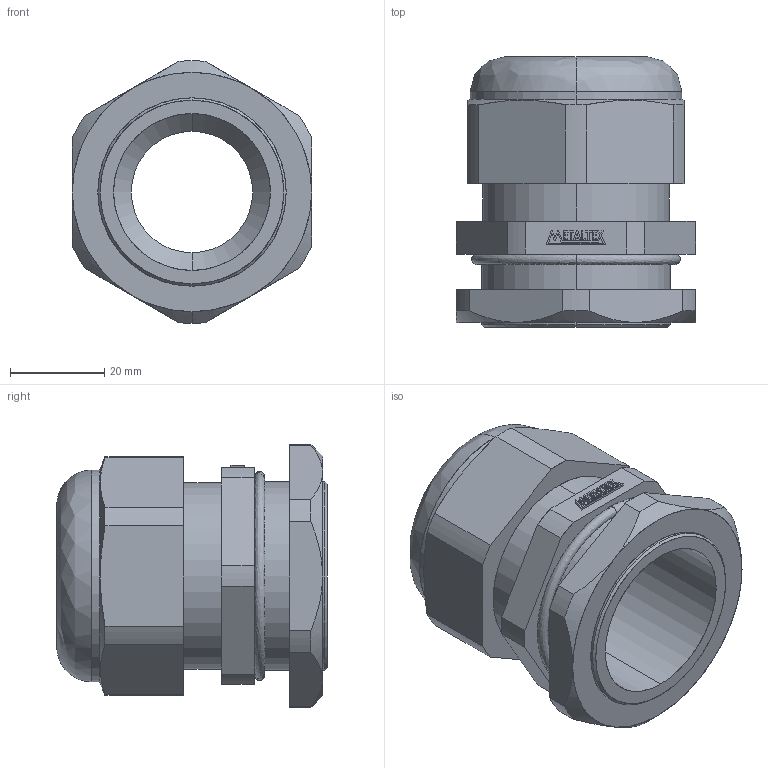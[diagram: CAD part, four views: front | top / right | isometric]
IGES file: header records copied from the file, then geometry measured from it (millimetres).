
Start section: SolidWorks IGES file using analytic representation for surfaces
Global section: file name: D:\X - Arquivos\PROEX\Empresas\P11 - METALTEX\01 - Produtos\IGES\Terceira remessa\Etapa 2\CH-M40.IGS; native system: SolidWorks 2012; preprocessor: SolidWorks 2012; author: Usuario; date: 180207.124256; units: millimetre
Bounding box: 50.85 x 57.5 x 55.8 mm (x, y, z)
Surface area: 19033.9 mm2 (no closed solid volume)
Topology: 0 solids, 0 shells, 174 faces, 1635 edges, 1635 vertices
Faces by surface type: bspline 125, revolution 49
